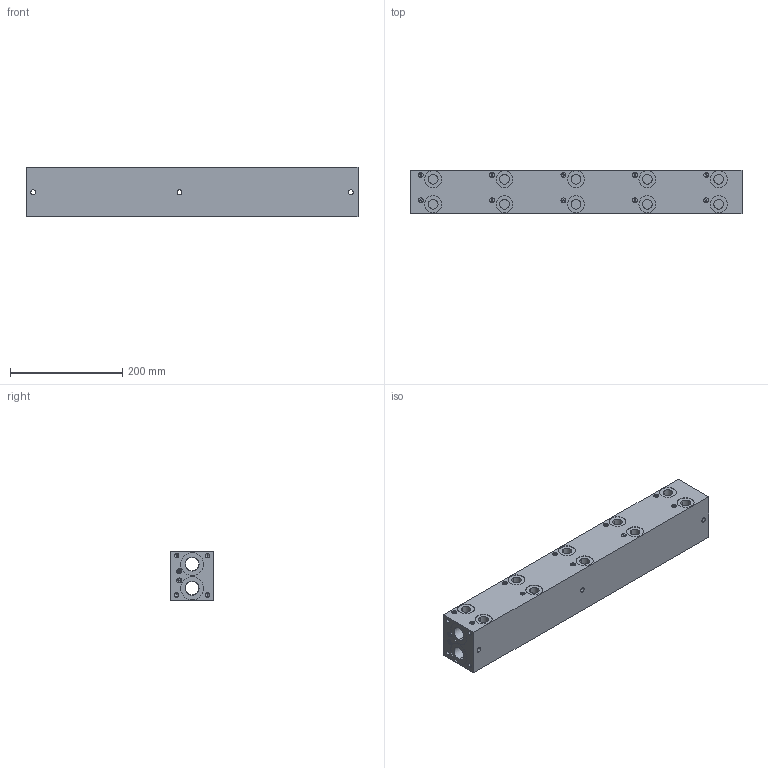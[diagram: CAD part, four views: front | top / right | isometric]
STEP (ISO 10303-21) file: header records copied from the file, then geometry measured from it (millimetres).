
FILE_DESCRIPTION (( 'STEP AP203' ), '1' );
FILE_NAME ('BM-ASP05S5-05-1_Z.STEP', '2015-01-06T16:12:08', ( '' ), ( '' ), 'SwSTEP 2.0', 'SolidWorks 2014', '' );
FILE_SCHEMA (( 'CONFIG_CONTROL_DESIGN' ));
Length unit declared in the file: inch
Products named in the file (1): BM-ASP05S5-05-1_Z
Bounding box: 590.55 x 76.71 x 88.04 mm (x, y, z)
Volume: 3397628.4 mm3; surface area: 322885.9 mm2
Topology: 1 solids, 1 shells, 679 faces, 1629 edges, 1006 vertices
Faces by surface type: plane 282, cylinder 236, cone 96, bspline 65
Entity records: 22768 total; most frequent: CARTESIAN_POINT 7388, DIRECTION 3105, ORIENTED_EDGE 3066, EDGE_CURVE 1533, AXIS2_PLACEMENT_3D 1087, VERTEX_POINT 1006, LINE 931, VECTOR 931
